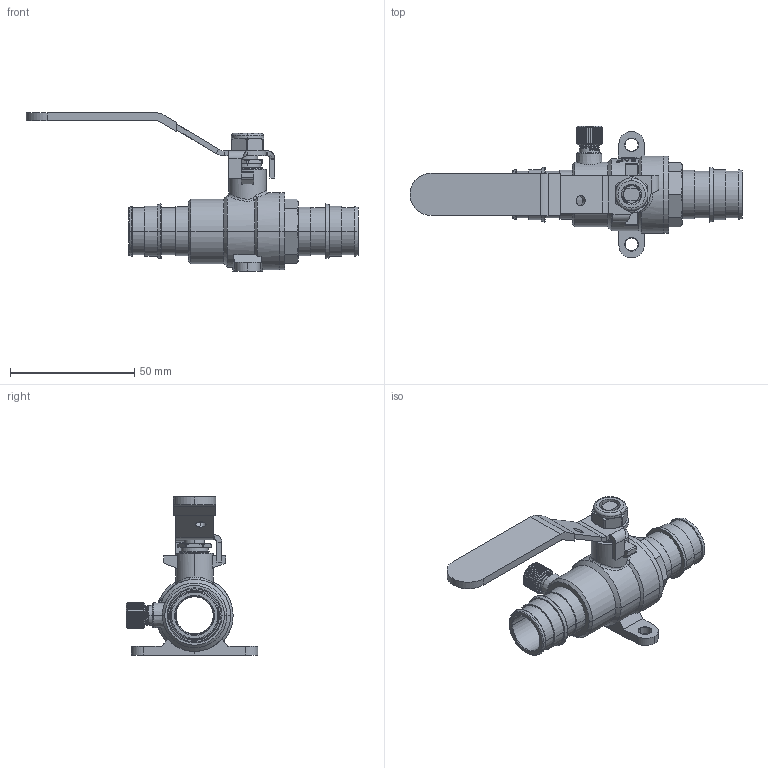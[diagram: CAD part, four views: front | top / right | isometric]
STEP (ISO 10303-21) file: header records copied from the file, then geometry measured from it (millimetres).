
FILE_DESCRIPTION(('Open CASCADE Model'),'2;1');
FILE_NAME('Open CASCADE Shape Model','2021-12-13T16:54:09',('Author'),( 'Open CASCADE'),'Open CASCADE STEP processor 7.3','Open CASCADE 7.3' ,'Unknown');
FILE_SCHEMA(('AUTOMOTIVE_DESIGN { 1 0 10303 214 1 1 1 1 }'));
Length unit declared in the file: millimetre
Products named in the file (14): Open CASCADE STEP translator 7.3 1; Open CASCADE STEP translator 7.3 1.1; Open CASCADE STEP translator 7.3 1.2; Open CASCADE STEP translator 7.3 1.3; Open CASCADE STEP translator 7.3 1.4; Open CASCADE STEP translator 7.3 1.5; Open CASCADE STEP translator 7.3 1.6; Open CASCADE STEP translator 7.3 1.7; Open CASCADE STEP translator 7.3 1.8; Open CASCADE STEP translator 7.3 1.9; Open CASCADE STEP translator 7.3 1.10; Open CASCADE STEP translator 7.3 1.11; Open CASCADE STEP translator 7.3 1.12; Open CASCADE STEP translator 7.3 1.13
Assembly tree (13 placements, depth 2):
  Open CASCADE STEP translator 7.3 1
    Open CASCADE STEP translator 7.3 1.1
    Open CASCADE STEP translator 7.3 1.2
    Open CASCADE STEP translator 7.3 1.3
    Open CASCADE STEP translator 7.3 1.4
    Open CASCADE STEP translator 7.3 1.5
    Open CASCADE STEP translator 7.3 1.6
    Open CASCADE STEP translator 7.3 1.7
    Open CASCADE STEP translator 7.3 1.8
    Open CASCADE STEP translator 7.3 1.9
    Open CASCADE STEP translator 7.3 1.10
    Open CASCADE STEP translator 7.3 1.11
    Open CASCADE STEP translator 7.3 1.12
    Open CASCADE STEP translator 7.3 1.13
Bounding box: 133.5 x 52.9 x 63.65 mm (x, y, z)
Volume: 33518.7 mm3; surface area: 29606.6 mm2
Topology: 13 solids, 13 shells, 983 faces, 2639 edges, 1717 vertices
Faces by surface type: cylinder 418, plane 289, bspline 142, cone 98, torus 28, sphere 6, revolution 2
Entity records: 135179 total; most frequent: CARTESIAN_POINT 88574, DIRECTION 6821, ORIENTED_EDGE 5274, PCURVE 5274, DEFINITIONAL_REPRESENTATION 5274, LINE 3598, VECTOR 3598, B_SPLINE_CURVE_WITH_KNOTS 3061
